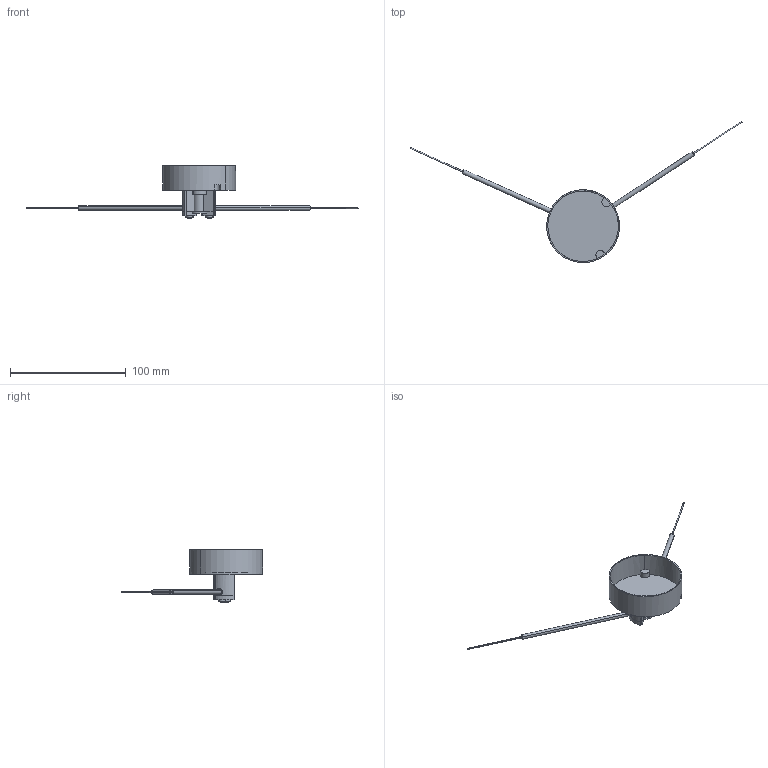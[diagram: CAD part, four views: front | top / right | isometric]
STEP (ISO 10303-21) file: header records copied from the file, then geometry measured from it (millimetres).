
FILE_DESCRIPTION (( 'STEP AP203' ), '1' );
FILE_NAME ('FU-30PRO.STEP', '2016-06-21T00:39:57', ( '' ), ( '' ), 'SwSTEP 2.0', 'SolidWorks 2014', '' );
FILE_SCHEMA (( 'CONFIG_CONTROL_DESIGN' ));
Length unit declared in the file: metre
Products named in the file (7): PROA30D-#-#-#-FR (2); PROA30D-#-#-#-FR (5); PROA30D-#-#-#-FR (7); PROA30D-#-#-#-FU (2); PROA30D-#-#-#-FR (4); FU-30PRO
Assembly tree (9 placements, depth 2):
  FU-30PRO
    PROA30D-#-#-#-FR (4)
    PROA30D-#-#-#-FR (2)  x2
    PROA30D-#-#-#-FR (5)  x2
    PROA30D-#-#-#-FR (7)  x2
    PROA30D-#-#-#-FU (2)
    (unnamed)
Bounding box: 286.86 x 122.01 x 45.61 mm (x, y, z)
Volume: 16881.3 mm3; surface area: 21686.5 mm2
Topology: 10 solids, 10 shells, 169 faces, 420 edges, 278 vertices
Faces by surface type: plane 83, cylinder 82, bspline 4
Entity records: 4452 total; most frequent: CARTESIAN_POINT 825, DIRECTION 629, ORIENTED_EDGE 570, EDGE_CURVE 285, AXIS2_PLACEMENT_3D 242, VERTEX_POINT 188, LINE 145, VECTOR 145
